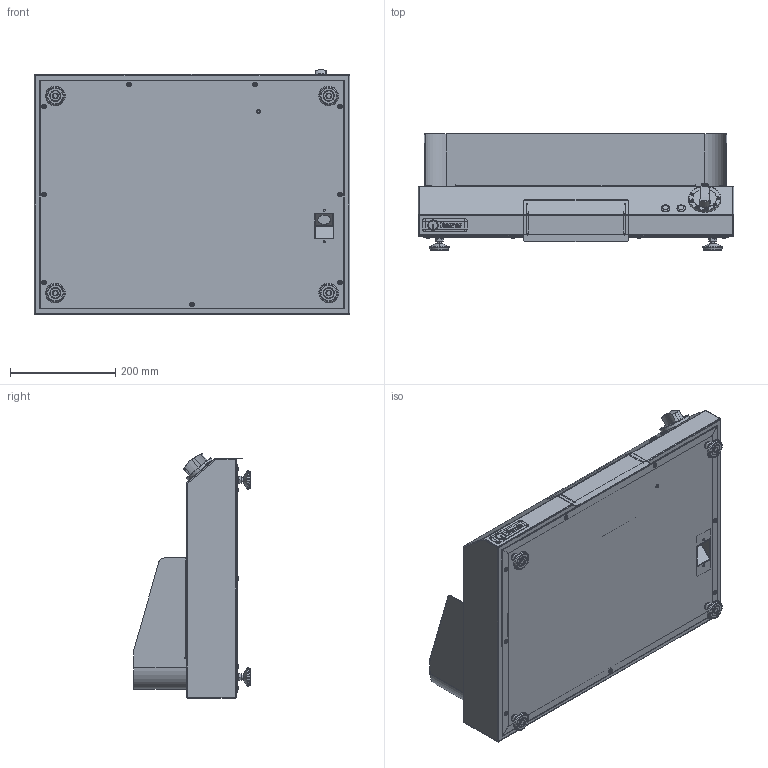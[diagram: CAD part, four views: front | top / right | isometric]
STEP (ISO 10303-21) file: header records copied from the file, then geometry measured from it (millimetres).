
FILE_DESCRIPTION (( 'STEP AP203' ), '1' );
FILE_NAME ('BGA60-45.step', '2021-11-05T09:39:29', ( '' ), ( '' ), 'SwSTEP 2.0', 'SolidWorks 2021', '' );
FILE_SCHEMA (( 'CONFIG_CONTROL_DESIGN' ));
Length unit declared in the file: millimetre
Products named in the file (33): Maschienen_Fuss_35; 100078_Unterlegscheibe_PTFE; BGA_Schublade_455_komplet; Alublock_Heizplatte_Komplet_konfig_1kW - 400V - 290mm; 501306-B_Knebel_Grill_60-300蚓_Berner Logo; 501306-R_Knebel_Grill_60-300蚓_rechts; 800201_Anzeigeleuchte; hex nuts 1-fine pitch-grades ab gb_GB_FASTENER_NUT_SNAB1XY M8X1-N; 800206_Anzeigelampe_gelb; BGA60-45; RAT-41-100-002266_Hinweisschild_Balken; RAT-41-100-003130_60-300_Grad-Grill; BGA_Bodenblech_455_konfig_BGA60-45; 002.10019_Tellerscheibe f黵 Alublock; Kabeleinführung_klein; 300100_Sicherheitsthermostat_360°; Torxschraube M4-konfig_M4x12; 802001_Knebel_schwarz_Geschlossen; Alublock_Heizwendel_konfig_290mm; BGA_Gehäuse_455_konfig_60-45; BGA_STB_Halter_Rechts; Alublock_Heizplatte_konfig_502008; BGA_Schubladenfront; RAT-41-100-002265_Hinweisschild_Logo; BGA_Bratplatte_455_konfig_BGA60-45; Torxschraube M4-konfig_M4x8; RAT-41-110-000417_Berner-Logo_85x25; 500301_Thermostat_56-306蚓_ohne Kapillarrohr; Alublock_Platte_konfig_502008 L290mm 1,0kW 400V; flat head riveted nuts gb_GB_SPECIAL_TYPE13 M8X15-N; BSS_Spritzschutz_konfig_BSS60-45; hex flange nut_din_Hexagon Flange Nut DIN 6923 - M8 - N; BGA_Schublade_455
Assembly tree (60 placements, depth 4):
  BGA60-45
    BGA_Bratplatte_455_konfig_BGA60-45
      BGA_Gehäuse_455_konfig_60-45
      BGA_Bodenblech_455_konfig_BGA60-45
      BGA_Schublade_455_komplet
        BGA_Schublade_455
        BGA_Schubladenfront
      BGA_STB_Halter_Rechts
      flat head riveted nuts gb_GB_SPECIAL_TYPE13 M8X15-N  x4
      hex nuts 1-fine pitch-grades ab gb_GB_FASTENER_NUT_SNAB1XY M8X1-N  x4
      Torxschraube M4-konfig_M4x12  x9
      Maschienen_Fuss_35  x4
      Kabeleinführung_klein
    800201_Anzeigeleuchte
    800206_Anzeigelampe_gelb
    500301_Thermostat_56-306蚓_ohne Kapillarrohr
    100078_Unterlegscheibe_PTFE
    501306-B_Knebel_Grill_60-300蚓_Berner Logo
      802001_Knebel_schwarz_Geschlossen
      RAT-41-100-002265_Hinweisschild_Logo
      RAT-41-100-003130_60-300_Grad-Grill
    300100_Sicherheitsthermostat_360°
    501306-R_Knebel_Grill_60-300蚓_rechts
      802001_Knebel_schwarz_Geschlossen
      RAT-41-100-002266_Hinweisschild_Balken
      RAT-41-100-003130_60-300_Grad-Grill
    Torxschraube M4-konfig_M4x8  x4
    BSS_Spritzschutz_konfig_BSS60-45
    RAT-41-110-000417_Berner-Logo_85x25
    Alublock_Heizplatte_Komplet_konfig_1kW - 400V - 290mm  x5
      Alublock_Heizplatte_konfig_502008
        Alublock_Platte_konfig_502008 L290mm 1,0kW 400V
        Alublock_Heizwendel_konfig_290mm
      002.10019_Tellerscheibe f黵 Alublock
      hex flange nut_din_Hexagon Flange Nut DIN 6923 - M8 - N
Bounding box: 600 x 221.51 x 464.49 mm (x, y, z)
Volume: 6655127.2 mm3; surface area: 2841185.3 mm2
Topology: 76 solids, 78 shells, 5430 faces, 13454 edges, 8435 vertices
Faces by surface type: plane 2137, cylinder 1460, bspline 1056, torus 364, cone 361, sphere 52
Entity records: 116359 total; most frequent: CARTESIAN_POINT 42633, ORIENTED_EDGE 14996, DIRECTION 13311, EDGE_CURVE 7498, VERTEX_POINT 4673, AXIS2_PLACEMENT_3D 4481, LINE 4349, VECTOR 4349
